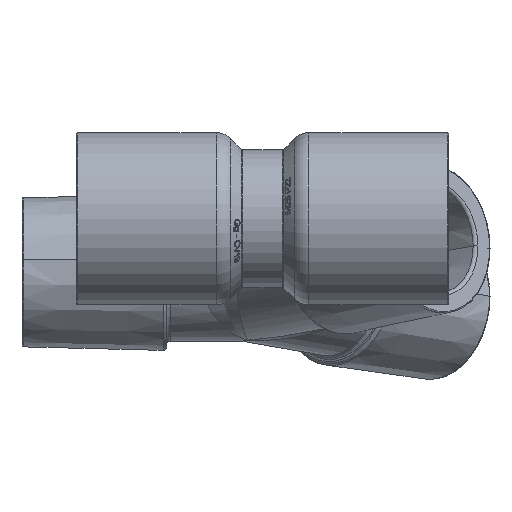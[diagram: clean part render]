
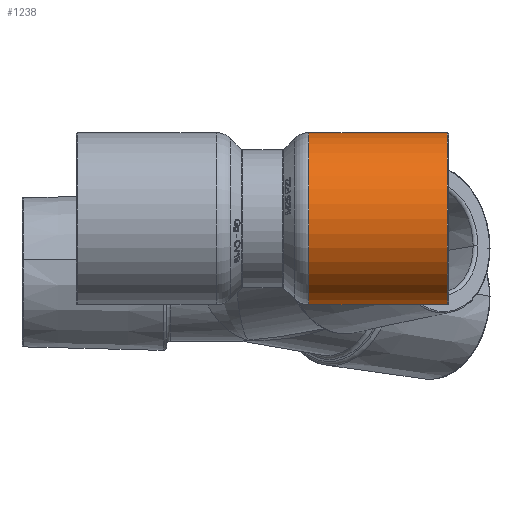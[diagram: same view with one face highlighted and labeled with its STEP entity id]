
A CAD part, top view. The second image highlights one B-rep face of the part: STEP entity #1238.
In plain terms, the highlighted cylindrical face has radius 12.5 mm (diameter 25 mm), a partial arc.
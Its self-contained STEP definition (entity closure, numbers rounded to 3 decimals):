
#753=FACE_OUTER_BOUND('',#3019,.T.);
#1238=ADVANCED_FACE('',(#753),#1508,.T.);
#1508=CYLINDRICAL_SURFACE('',#9016,12.5);
#1687=CIRCLE('',#9014,12.5);
#1688=CIRCLE('',#9015,12.5);
#1930=LINE('',#17034,#2377);
#1931=LINE('',#17035,#2378);
#2377=VECTOR('',#10236,1.);
#2378=VECTOR('',#10237,1.);
#3019=EDGE_LOOP('',(#4582,#4583,#4584,#4585));
#4582=ORIENTED_EDGE('',*,*,#7315,.F.);
#4583=ORIENTED_EDGE('',*,*,#7317,.T.);
#4584=ORIENTED_EDGE('',*,*,#7316,.T.);
#4585=ORIENTED_EDGE('',*,*,#7318,.T.);
#6250=VERTEX_POINT('',#16971);
#6251=VERTEX_POINT('',#16972);
#6258=VERTEX_POINT('',#16993);
#6259=VERTEX_POINT('',#16994);
#7315=EDGE_CURVE('',#6259,#6250,#1930,.T.);
#7316=EDGE_CURVE('',#6258,#6251,#1931,.T.);
#7317=EDGE_CURVE('',#6259,#6258,#1687,.T.);
#7318=EDGE_CURVE('',#6251,#6250,#1688,.T.);
#9014=AXIS2_PLACEMENT_3D('',#17037,#10240,#10241);
#9015=AXIS2_PLACEMENT_3D('',#17038,#10242,#10243);
#9016=AXIS2_PLACEMENT_3D('',#17039,#10244,#10245);
#10236=DIRECTION('',(-1.,0.,0.));
#10237=DIRECTION('',(-1.,0.,0.));
#10240=DIRECTION('',(-1.,0.,0.));
#10241=DIRECTION('',(0.,-1.,0.));
#10242=DIRECTION('',(1.,0.,0.));
#10243=DIRECTION('',(0.,1.,0.));
#10244=DIRECTION('',(-1.,0.,0.));
#10245=DIRECTION('',(0.,-1.,0.));
#16971=CARTESIAN_POINT('',(47.743,-12.5,96.));
#16972=CARTESIAN_POINT('',(47.743,12.5,96.));
#16993=CARTESIAN_POINT('',(67.8,12.5,96.));
#16994=CARTESIAN_POINT('',(67.8,-12.5,96.));
#17034=CARTESIAN_POINT('',(44.,-12.5,96.));
#17035=CARTESIAN_POINT('',(44.,12.5,96.));
#17037=CARTESIAN_POINT('',(67.8,0.,96.));
#17038=CARTESIAN_POINT('',(47.743,0.,96.));
#17039=CARTESIAN_POINT('',(44.,0.,96.));
